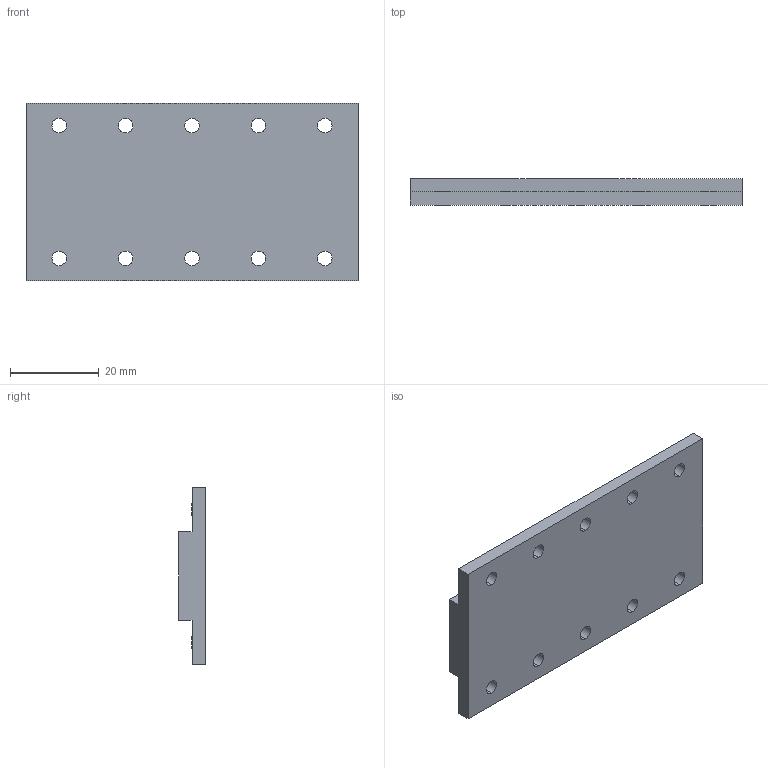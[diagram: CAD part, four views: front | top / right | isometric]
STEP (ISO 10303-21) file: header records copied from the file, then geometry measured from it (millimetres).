
FILE_DESCRIPTION (( 'STEP AP203' ), '1' );
FILE_NAME ('DPN30M75.STEP', '2017-12-15T06:49:09', ( 'Windows 蚚誧' ), ( '' ), 'SwSTEP 2.0', 'SolidWorks 2016', '' );
FILE_SCHEMA (( 'CONFIG_CONTROL_DESIGN' ));
Length unit declared in the file: millimetre
Products named in the file (1): DPN30M75
Bounding box: 75 x 6 x 40 mm (x, y, z)
Volume: 13243.4 mm3; surface area: 7400 mm2
Topology: 1 solids, 1 shells, 30 faces, 84 edges, 56 vertices
Faces by surface type: cylinder 20, plane 10
Entity records: 1105 total; most frequent: DIRECTION 186, CARTESIAN_POINT 171, ORIENTED_EDGE 168, EDGE_CURVE 84, AXIS2_PLACEMENT_3D 71, VERTEX_POINT 56, EDGE_LOOP 50, VECTOR 44
